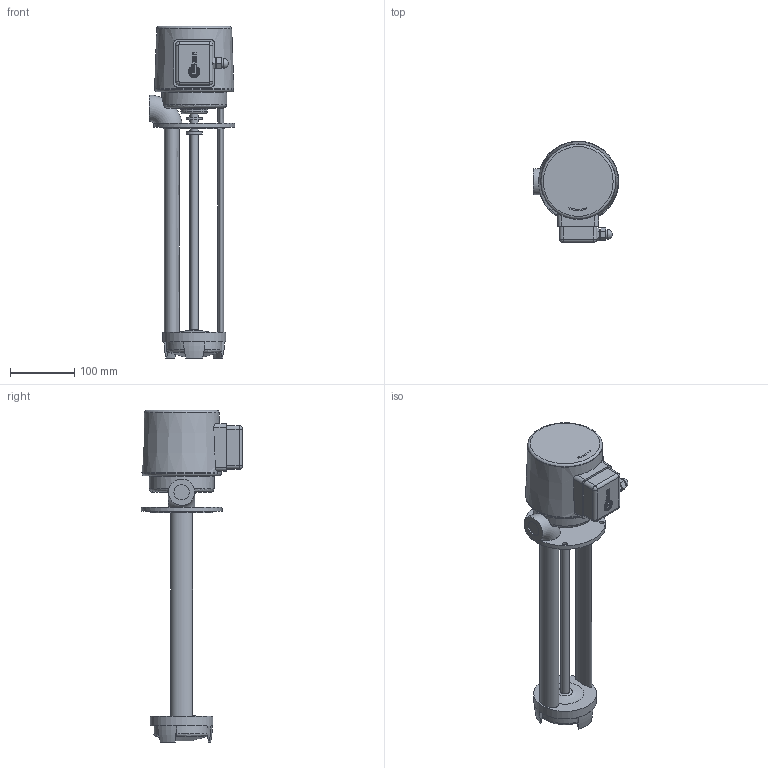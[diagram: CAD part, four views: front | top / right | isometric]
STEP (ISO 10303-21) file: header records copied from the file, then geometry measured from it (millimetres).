
FILE_DESCRIPTION(/* description */ ('Unknown'),/* implementation_level */ '2;1');
FILE_NAME(/* name */ 'CP35',/* time_stamp */ '2025-05-30T09:28:45+03:00',/* author */ ('Unknown'),/* organization */ ('Unknown'),/* preprocessor_version */ 'ST-DEVELOPER v16.7',/* originating_system */ 'DEX',/* authorisation */ $);
FILE_SCHEMA (('AUTOMOTIVE_DESIGN {1 0 10303 214 3 1 1}'));
Length unit declared in the file: millimetre
Products named in the file (1): CP35
Bounding box: 133.07 x 158.57 x 518.49 mm (x, y, z)
Volume: 2261319.8 mm3; surface area: 204927.7 mm2
Topology: 1 solids, 1 shells, 218 faces, 546 edges, 359 vertices
Faces by surface type: plane 73, bspline 69, cylinder 49, torus 21, cone 6
Full cylindrical faces by diameter (mm): 7 x4, 12 x1, 13.186 x4, 15 x1, 24 x1, 25.386 x2, 41.386 x1, 96.147 x1, 98 x1, 101.386 x1, 126.147 x1
Entity records: 8852 total; most frequent: CARTESIAN_POINT 4223, ORIENTED_EDGE 992, DIRECTION 752, EDGE_CURVE 496, VERTEX_POINT 347, EDGE_LOOP 301, FACE_BOUND 301, AXIS2_PLACEMENT_3D 278
